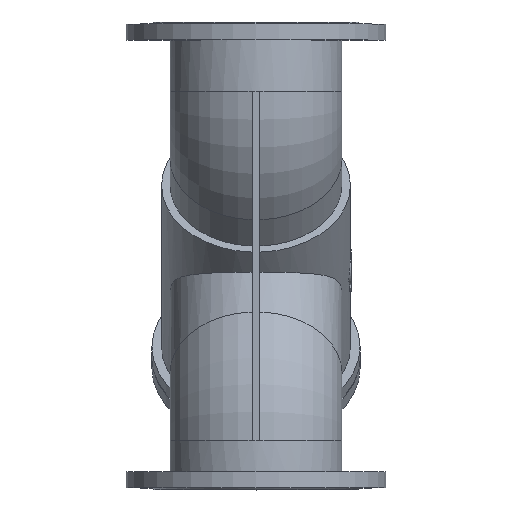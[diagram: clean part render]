
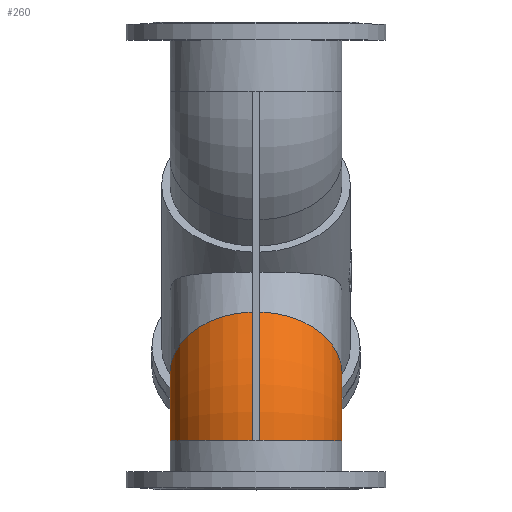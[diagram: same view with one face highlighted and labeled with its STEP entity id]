
A CAD part, top view. The second image highlights one B-rep face of the part: STEP entity #260.
In plain terms, the highlighted toroidal (fillet/blend) face has major radius 150 mm and minor radius 134 mm.
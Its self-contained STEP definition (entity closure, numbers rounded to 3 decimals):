
#260=ADVANCED_FACE('',(#1056),#1058,.T.);
#1056=FACE_BOUND('',#1057,.T.);
#1057=EDGE_LOOP('',(#1860,#1861,#1862,#1863));
#1058=TOROIDAL_SURFACE('',#1059,150.,134.);
#1059=AXIS2_PLACEMENT_3D('',#1060,#1061,#1062);
#1060=CARTESIAN_POINT('',(0.,-288.139,-150.));
#1061=DIRECTION('',(-1.,0.,0.));
#1062=DIRECTION('',(0.,0.,1.));
#1860=ORIENTED_EDGE('',*,*,#2134,.F.);
#1861=ORIENTED_EDGE('',*,*,#2153,.F.);
#1862=ORIENTED_EDGE('',*,*,#2151,.F.);
#1863=ORIENTED_EDGE('',*,*,#2154,.T.);
#2134=EDGE_CURVE('',#2340,#2342,#2343,.F.);
#2151=EDGE_CURVE('',#2372,#2362,#2374,.T.);
#2153=EDGE_CURVE('',#2362,#2340,#2377,.T.);
#2154=EDGE_CURVE('',#2372,#2342,#2378,.T.);
#2340=VERTEX_POINT('',#3595);
#2342=VERTEX_POINT('',#3599);
#2343=CIRCLE('',#3600,283.866);
#2362=VERTEX_POINT('',#3646);
#2372=VERTEX_POINT('',#3667);
#2374=CIRCLE('',#3671,283.866);
#2377=CIRCLE('',#3680,134.);
#2378=CIRCLE('',#3684,134.);
#3595=CARTESIAN_POINT('',(-6.,-87.416,50.723));
#3599=CARTESIAN_POINT('',(-6.,-288.139,133.866));
#3600=AXIS2_PLACEMENT_3D('',#3601,#3602,#3603);
#3601=CARTESIAN_POINT('',(-6.,-288.139,-150.));
#3602=DIRECTION('',(-1.,0.,0.));
#3603=DIRECTION('',(0.,0.,1.));
#3646=CARTESIAN_POINT('',(6.,-87.416,50.723));
#3667=CARTESIAN_POINT('',(6.,-288.139,133.866));
#3671=AXIS2_PLACEMENT_3D('',#3672,#3673,#3674);
#3672=CARTESIAN_POINT('',(6.,-288.139,-150.));
#3673=DIRECTION('',(-1.,0.,0.));
#3674=DIRECTION('',(0.,0.,1.));
#3680=AXIS2_PLACEMENT_3D('',#3681,#3682,#3683);
#3681=CARTESIAN_POINT('',(0.,-182.073,-43.934));
#3682=DIRECTION('',(0.,0.707,-0.707));
#3683=DIRECTION('',(0.045,0.706,0.706));
#3684=AXIS2_PLACEMENT_3D('',#3685,#3686,#3687);
#3685=CARTESIAN_POINT('',(0.,-288.139,0.));
#3686=DIRECTION('',(0.,1.,0.));
#3687=DIRECTION('',(0.045,0.,0.999));
